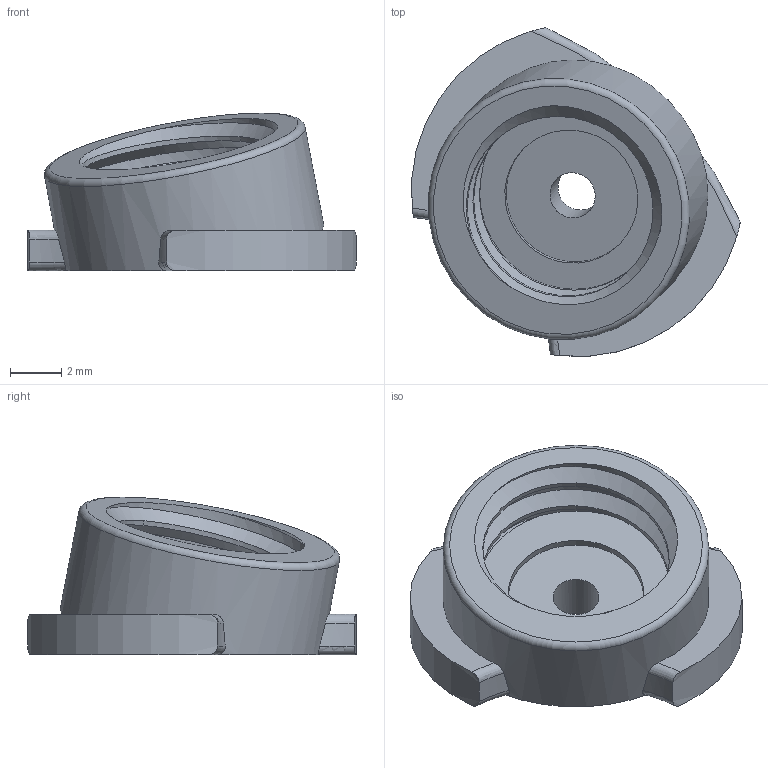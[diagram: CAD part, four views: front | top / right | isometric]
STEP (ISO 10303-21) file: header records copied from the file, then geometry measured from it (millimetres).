
FILE_DESCRIPTION(('Open CASCADE Model'),'2;1');
FILE_NAME('Open CASCADE Shape Model','2026-10-02T16:27:10',('Author'),( 'Open CASCADE'),'Open CASCADE STEP processor 7.9','Open CASCADE 7.9' ,'Unknown');
FILE_SCHEMA(('AUTOMOTIVE_DESIGN { 1 0 10303 214 1 1 1 1 }'));
Length unit declared in the file: millimetre
Products named in the file (1): Open CASCADE STEP translator 7.9 3
Bounding box: 12.87 x 12.87 x 6.18 mm (x, y, z)
Volume: 308.7 mm3; surface area: 515.6 mm2
Topology: 1 solids, 1 shells, 27 faces, 68 edges, 45 vertices
Faces by surface type: cylinder 11, torus 7, plane 6, bspline 3
Full cylindrical faces by diameter (mm): 1.8 x1, 5.3 x1, 7.3 x1, 10.4 x1
Entity records: 4476 total; most frequent: CARTESIAN_POINT 3226, DIRECTION 194, ORIENTED_EDGE 136, PCURVE 136, DEFINITIONAL_REPRESENTATION 136, B_SPLINE_CURVE_WITH_KNOTS 84, EDGE_CURVE 68, LINE 68
